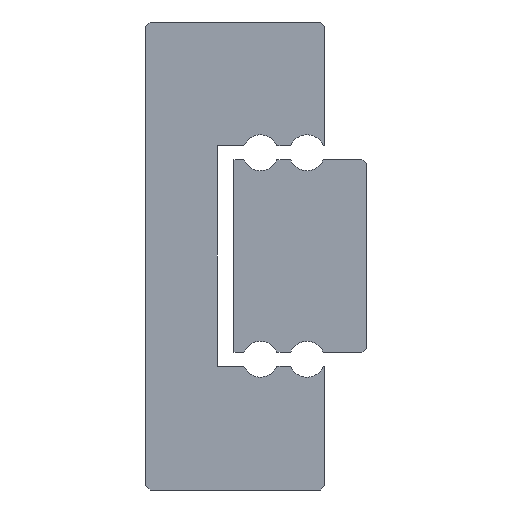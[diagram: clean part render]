
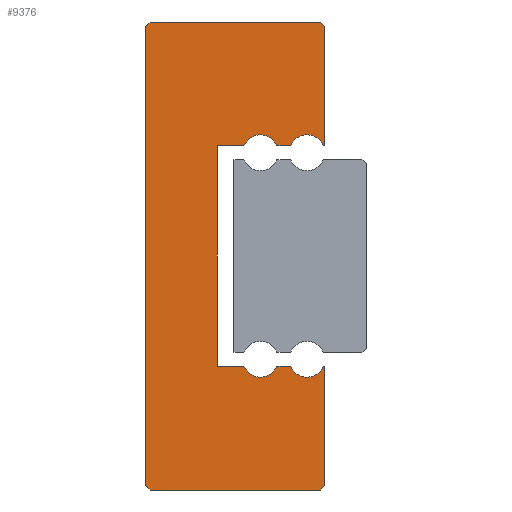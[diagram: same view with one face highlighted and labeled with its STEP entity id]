
A CAD part, left-side view. The second image highlights one B-rep face of the part: STEP entity #9376.
In plain terms, the highlighted planar face has unit normal (-1, 0, 0).
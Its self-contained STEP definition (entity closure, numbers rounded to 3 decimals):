
#310=CIRCLE('',#10188,0.65);
#312=CIRCLE('',#10192,0.65);
#314=CIRCLE('',#10198,0.65);
#316=CIRCLE('',#10202,0.65);
#1581=ORIENTED_EDGE('',*,*,#3932,.F.);
#1582=ORIENTED_EDGE('',*,*,#4378,.F.);
#1583=ORIENTED_EDGE('',*,*,#4375,.F.);
#1584=ORIENTED_EDGE('',*,*,#4366,.F.);
#1585=ORIENTED_EDGE('',*,*,#4363,.F.);
#1586=ORIENTED_EDGE('',*,*,#4360,.F.);
#1587=ORIENTED_EDGE('',*,*,#4357,.F.);
#1588=ORIENTED_EDGE('',*,*,#4354,.F.);
#1589=ORIENTED_EDGE('',*,*,#4351,.T.);
#1590=ORIENTED_EDGE('',*,*,#4348,.F.);
#1591=ORIENTED_EDGE('',*,*,#4345,.T.);
#1592=ORIENTED_EDGE('',*,*,#4342,.F.);
#1593=ORIENTED_EDGE('',*,*,#4339,.F.);
#1594=ORIENTED_EDGE('',*,*,#4336,.F.);
#1595=ORIENTED_EDGE('',*,*,#4333,.T.);
#1596=ORIENTED_EDGE('',*,*,#4330,.F.);
#1597=ORIENTED_EDGE('',*,*,#4327,.T.);
#1598=ORIENTED_EDGE('',*,*,#4324,.F.);
#1599=ORIENTED_EDGE('',*,*,#4321,.F.);
#1600=ORIENTED_EDGE('',*,*,#4318,.F.);
#3932=EDGE_CURVE('',#5366,#5367,#6334,.T.);
#4318=EDGE_CURVE('',#5367,#5752,#6472,.T.);
#4321=EDGE_CURVE('',#5752,#5754,#6475,.T.);
#4324=EDGE_CURVE('',#5754,#5756,#6478,.T.);
#4327=EDGE_CURVE('',#5758,#5756,#310,.T.);
#4330=EDGE_CURVE('',#5758,#5760,#6482,.T.);
#4333=EDGE_CURVE('',#5762,#5760,#312,.T.);
#4336=EDGE_CURVE('',#5762,#5764,#6486,.T.);
#4339=EDGE_CURVE('',#5764,#5766,#6489,.T.);
#4342=EDGE_CURVE('',#5766,#5768,#6492,.T.);
#4345=EDGE_CURVE('',#5770,#5768,#314,.T.);
#4348=EDGE_CURVE('',#5770,#5772,#6496,.T.);
#4351=EDGE_CURVE('',#5774,#5772,#316,.T.);
#4354=EDGE_CURVE('',#5774,#5776,#6500,.T.);
#4357=EDGE_CURVE('',#5776,#5778,#6503,.T.);
#4360=EDGE_CURVE('',#5778,#5780,#6506,.T.);
#4363=EDGE_CURVE('',#5780,#5782,#6509,.T.);
#4366=EDGE_CURVE('',#5782,#5784,#6512,.T.);
#4375=EDGE_CURVE('',#5784,#5792,#6515,.T.);
#4378=EDGE_CURVE('',#5792,#5366,#6518,.T.);
#5366=VERTEX_POINT('',#14327);
#5367=VERTEX_POINT('',#14328);
#5752=VERTEX_POINT('',#15100);
#5754=VERTEX_POINT('',#15106);
#5756=VERTEX_POINT('',#15112);
#5758=VERTEX_POINT('',#15118);
#5760=VERTEX_POINT('',#15124);
#5762=VERTEX_POINT('',#15130);
#5764=VERTEX_POINT('',#15136);
#5766=VERTEX_POINT('',#15142);
#5768=VERTEX_POINT('',#15148);
#5770=VERTEX_POINT('',#15154);
#5772=VERTEX_POINT('',#15160);
#5774=VERTEX_POINT('',#15166);
#5776=VERTEX_POINT('',#15172);
#5778=VERTEX_POINT('',#15178);
#5780=VERTEX_POINT('',#15184);
#5782=VERTEX_POINT('',#15190);
#5784=VERTEX_POINT('',#15196);
#5792=VERTEX_POINT('',#15214);
#6334=LINE('',#14326,#7150);
#6472=LINE('',#15099,#7288);
#6475=LINE('',#15105,#7291);
#6478=LINE('',#15111,#7294);
#6482=LINE('',#15123,#7298);
#6486=LINE('',#15135,#7302);
#6489=LINE('',#15141,#7305);
#6492=LINE('',#15147,#7308);
#6496=LINE('',#15159,#7312);
#6500=LINE('',#15171,#7316);
#6503=LINE('',#15177,#7319);
#6506=LINE('',#15183,#7322);
#6509=LINE('',#15189,#7325);
#6512=LINE('',#15195,#7328);
#6515=LINE('',#15213,#7331);
#6518=LINE('',#15219,#7334);
#7150=VECTOR('',#11187,1000.);
#7288=VECTOR('',#11823,1000.);
#7291=VECTOR('',#11828,1000.);
#7294=VECTOR('',#11833,1000.);
#7298=VECTOR('',#11845,1000.);
#7302=VECTOR('',#11857,1000.);
#7305=VECTOR('',#11862,1000.);
#7308=VECTOR('',#11867,1000.);
#7312=VECTOR('',#11879,1000.);
#7316=VECTOR('',#11891,1000.);
#7319=VECTOR('',#11896,1000.);
#7322=VECTOR('',#11901,1000.);
#7325=VECTOR('',#11906,1000.);
#7328=VECTOR('',#11911,1000.);
#7331=VECTOR('',#11928,1000.);
#7334=VECTOR('',#11933,1000.);
#8022=EDGE_LOOP('',(#1581,#1582,#1583,#1584,#1585,#1586,#1587,#1588,#1589,
#1590,#1591,#1592,#1593,#1594,#1595,#1596,#1597,#1598,#1599,#1600));
#8615=FACE_BOUND('',#8022,.T.);
#9148=PLANE('',#10218);
#9376=ADVANCED_FACE('',(#8615),#9148,.F.);
#10188=AXIS2_PLACEMENT_3D('',#15117,#11838,#11839);
#10192=AXIS2_PLACEMENT_3D('',#15129,#11850,#11851);
#10198=AXIS2_PLACEMENT_3D('',#15153,#11872,#11873);
#10202=AXIS2_PLACEMENT_3D('',#15165,#11884,#11885);
#10218=AXIS2_PLACEMENT_3D('',#15222,#11937,#11938);
#11187=DIRECTION('',(0.,-1.,0.));
#11823=DIRECTION('',(0.,-0.707,-0.707));
#11828=DIRECTION('',(0.,0.,-1.));
#11833=DIRECTION('',(0.,1.,0.));
#11838=DIRECTION('',(1.,0.,0.));
#11839=DIRECTION('',(0.,0.,-1.));
#11845=DIRECTION('',(0.,1.,0.));
#11850=DIRECTION('',(1.,0.,0.));
#11851=DIRECTION('',(0.,0.,-1.));
#11857=DIRECTION('',(0.,1.,0.));
#11862=DIRECTION('',(0.,0.,-1.));
#11867=DIRECTION('',(0.,-1.,0.));
#11872=DIRECTION('',(1.,0.,0.));
#11873=DIRECTION('',(0.,0.,-1.));
#11879=DIRECTION('',(0.,-1.,0.));
#11884=DIRECTION('',(1.,0.,0.));
#11885=DIRECTION('',(0.,0.,-1.));
#11891=DIRECTION('',(0.,-1.,0.));
#11896=DIRECTION('',(0.,0.,-1.));
#11901=DIRECTION('',(0.,0.707,-0.707));
#11906=DIRECTION('',(0.,1.,0.));
#11911=DIRECTION('',(0.,0.707,0.707));
#11928=DIRECTION('',(0.,0.,1.));
#11933=DIRECTION('',(0.,-0.707,0.707));
#11937=DIRECTION('',(1.,0.,0.));
#11938=DIRECTION('',(0.,0.,-1.));
#14326=CARTESIAN_POINT('',(-20.,6.35,8.5));
#14327=CARTESIAN_POINT('',(-20.,6.35,8.5));
#14328=CARTESIAN_POINT('',(-20.,0.15,8.5));
#15099=CARTESIAN_POINT('',(-20.,0.15,8.5));
#15100=CARTESIAN_POINT('',(-20.,0.,8.35));
#15105=CARTESIAN_POINT('',(-20.,0.,8.35));
#15106=CARTESIAN_POINT('',(-20.,0.,4.));
#15111=CARTESIAN_POINT('',(-20.,0.,4.));
#15112=CARTESIAN_POINT('',(-20.,0.05,4.));
#15117=CARTESIAN_POINT('',(-20.,0.65,3.75));
#15118=CARTESIAN_POINT('',(-20.,1.25,4.));
#15123=CARTESIAN_POINT('',(-20.,1.25,4.));
#15124=CARTESIAN_POINT('',(-20.,1.74,4.));
#15129=CARTESIAN_POINT('',(-20.,2.34,3.75));
#15130=CARTESIAN_POINT('',(-20.,2.94,4.));
#15135=CARTESIAN_POINT('',(-20.,2.94,4.));
#15136=CARTESIAN_POINT('',(-20.,3.9,4.));
#15141=CARTESIAN_POINT('',(-20.,3.9,4.));
#15142=CARTESIAN_POINT('',(-20.,3.9,-4.));
#15147=CARTESIAN_POINT('',(-20.,3.9,-4.));
#15148=CARTESIAN_POINT('',(-20.,2.94,-4.));
#15153=CARTESIAN_POINT('',(-20.,2.34,-3.75));
#15154=CARTESIAN_POINT('',(-20.,1.74,-4.));
#15159=CARTESIAN_POINT('',(-20.,1.74,-4.));
#15160=CARTESIAN_POINT('',(-20.,1.25,-4.));
#15165=CARTESIAN_POINT('',(-20.,0.65,-3.75));
#15166=CARTESIAN_POINT('',(-20.,0.05,-4.));
#15171=CARTESIAN_POINT('',(-20.,0.05,-4.));
#15172=CARTESIAN_POINT('',(-20.,0.,-4.));
#15177=CARTESIAN_POINT('',(-20.,0.,-4.));
#15178=CARTESIAN_POINT('',(-20.,0.,-8.35));
#15183=CARTESIAN_POINT('',(-20.,0.,-8.35));
#15184=CARTESIAN_POINT('',(-20.,0.15,-8.5));
#15189=CARTESIAN_POINT('',(-20.,0.15,-8.5));
#15190=CARTESIAN_POINT('',(-20.,6.35,-8.5));
#15195=CARTESIAN_POINT('',(-20.,6.35,-8.5));
#15196=CARTESIAN_POINT('',(-20.,6.5,-8.35));
#15213=CARTESIAN_POINT('',(-20.,6.5,-8.35));
#15214=CARTESIAN_POINT('',(-20.,6.5,8.35));
#15219=CARTESIAN_POINT('',(-20.,6.5,8.35));
#15222=CARTESIAN_POINT('',(-20.,0.65,3.75));
